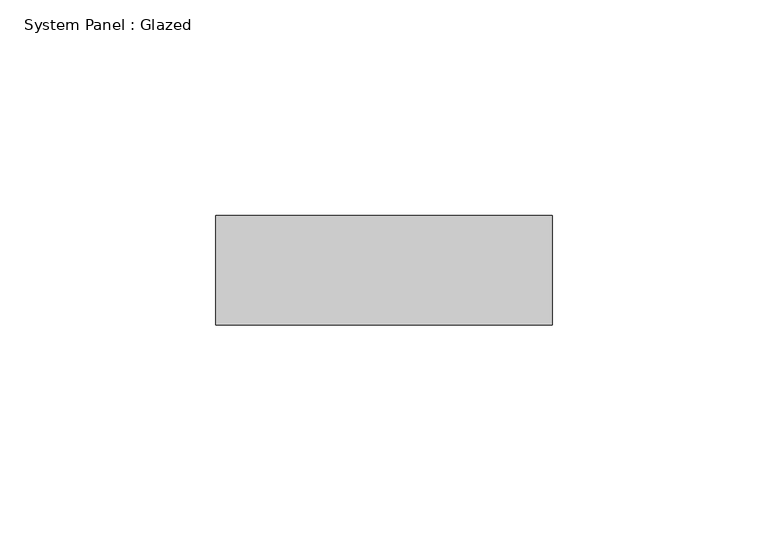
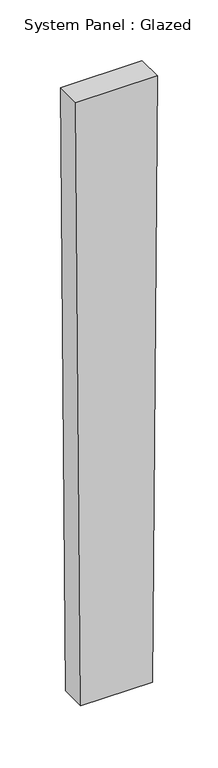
"""IFC4 building model written with IfcOpenShell, lengths in millimetres: plate geometry, System Panel : Glazed."""

from ifc_helpers import new_model, si_unit, frame, origin, place, context, project, spatial, polyline, outline, extrude, source, transform, mapped, element, save


def system_panel_glazed_4cb8769e(model_context):
    return source(origin(), model_context, "Body", "SweptSolid", [
        extrude(outline(polyline([(0.0, -34.187216), (0.0, 34.187216), (609.5809659, 39.0044817), (609.5809659, -39.0044817), (0.0, -34.187216)])), frame((0.0, -44.45, 0.0), z_axis=(0.0, 1.0, 0.0), x_axis=(0.0, 0.0, 1.0)), (0.0, 0.0, 1.0), 25.4),
    ])


if __name__ == "__main__":
    model = new_model("IFC4")
    model_context = context("Model", 3, world=origin())
    ifc_project = project(units=[si_unit("LENGTHUNIT", "METRE", prefix="MILLI")], contexts=[model_context])
    site = spatial("IfcSite", under=ifc_project)
    building = spatial("IfcBuilding", under=site)
    placement = place(None, origin())
    system_panel_glazed_shape = system_panel_glazed_4cb8769e(model_context)
    element("IfcPlate", 1, ObjectType="System Panel : Glazed", at=placement, inside=building, context=model_context, shape_type="MappedRepresentation", body=[
        mapped(system_panel_glazed_shape, transform((0.0, 0.0, 0.0), x_axis=(1.0, 0.0, 0.0), y_axis=(0.0, 1.0, 0.0), z_axis=(0.0, 0.0, 1.0))),
    ])
    save(model, "model.ifc")
